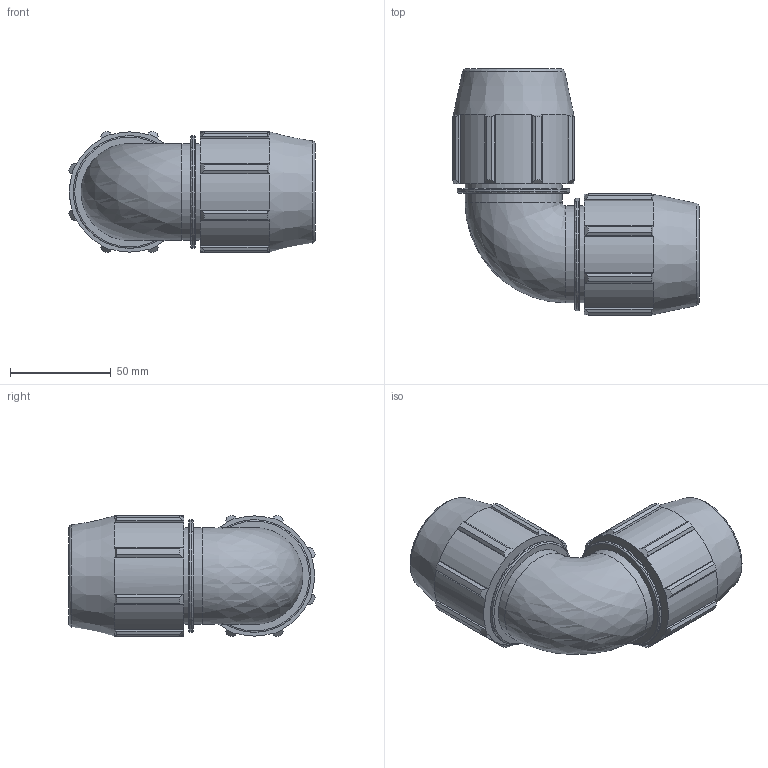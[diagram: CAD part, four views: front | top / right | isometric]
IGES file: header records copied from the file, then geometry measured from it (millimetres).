
Global section: file name: 0705M0010.ipt; native system: Autodesk Inventor 2019; preprocessor: unknown; author: KIM; date: 20210826.124608; units: inch
Bounding box: 122.06 x 122.06 x 60.23 mm (x, y, z)
Volume: 267585.1 mm3; surface area: 56382.8 mm2
Topology: 1 solids, 1 shells, 162 faces, 465 edges, 315 vertices
Faces by surface type: plane 76, cylinder 38, cone 34, revolution 14
Full cylindrical faces by diameter (mm): 48.006 x4, 55.687 x2
